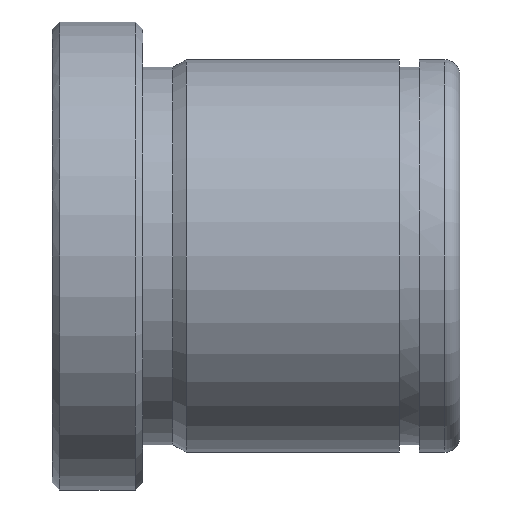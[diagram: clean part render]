
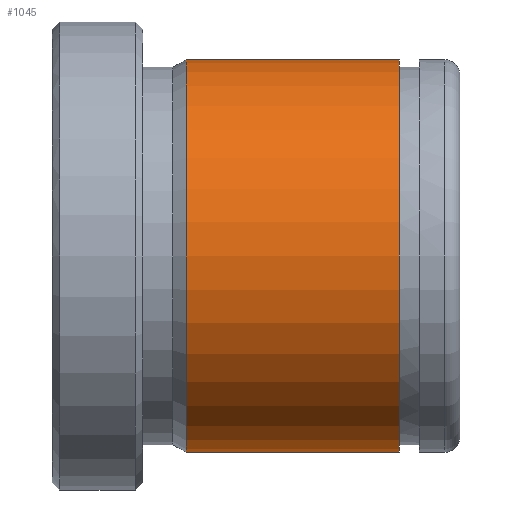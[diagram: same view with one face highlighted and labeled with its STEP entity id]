
A CAD part, front view. The second image highlights one B-rep face of the part: STEP entity #1045.
In plain terms, the highlighted cylindrical face has radius 13 mm (diameter 26 mm), a partial arc.
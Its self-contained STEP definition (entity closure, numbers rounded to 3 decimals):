
#851=CARTESIAN_POINT('Vertex',(8.866,0.,-13.)) ;
#858=CARTESIAN_POINT('Vertex',(8.866,0.,13.)) ;
#887=CARTESIAN_POINT('Axis2P3D Location',(8.866,0.,0.)) ;
#891=CARTESIAN_POINT('Vertex',(8.866,-13.,0.)) ;
#894=CARTESIAN_POINT('Axis2P3D Location',(8.866,0.,0.)) ;
#985=CARTESIAN_POINT('Line Origine',(54.,0.,13.)) ;
#989=CARTESIAN_POINT('Vertex',(23.,0.,13.)) ;
#1003=CARTESIAN_POINT('Vertex',(23.,0.,-13.)) ;
#1006=CARTESIAN_POINT('Line Origine',(54.,0.,-13.)) ;
#1020=CARTESIAN_POINT('Axis2P3D Location',(54.,0.,0.)) ;
#1025=CARTESIAN_POINT('Axis2P3D Location',(23.,0.,0.)) ;
#1029=CARTESIAN_POINT('Vertex',(23.,-13.,0.)) ;
#1032=CARTESIAN_POINT('Axis2P3D Location',(23.,0.,0.)) ;
#888=DIRECTION('Axis2P3D Direction',(1.,0.,-0.)) ;
#895=DIRECTION('Axis2P3D Direction',(1.,0.,-0.)) ;
#986=DIRECTION('Vector Direction',(-1.,0.,0.)) ;
#1007=DIRECTION('Vector Direction',(-1.,0.,0.)) ;
#1021=DIRECTION('Axis2P3D Direction',(-1.,-0.,-0.)) ;
#1022=DIRECTION('Axis2P3D XDirection',(0.,0.,-1.)) ;
#1026=DIRECTION('Axis2P3D Direction',(-1.,-0.,-0.)) ;
#1033=DIRECTION('Axis2P3D Direction',(-1.,-0.,-0.)) ;
#889=AXIS2_PLACEMENT_3D('Circle Axis2P3D',#887,#888,$) ;
#896=AXIS2_PLACEMENT_3D('Circle Axis2P3D',#894,#895,$) ;
#1023=AXIS2_PLACEMENT_3D('Cylinder Axis2P3D',#1020,#1021,#1022) ;
#1027=AXIS2_PLACEMENT_3D('Circle Axis2P3D',#1025,#1026,$) ;
#1034=AXIS2_PLACEMENT_3D('Circle Axis2P3D',#1032,#1033,$) ;
#1038=ORIENTED_EDGE('',*,*,#1010,.T.) ;
#1039=ORIENTED_EDGE('',*,*,#1031,.F.) ;
#1040=ORIENTED_EDGE('',*,*,#1036,.F.) ;
#1041=ORIENTED_EDGE('',*,*,#991,.T.) ;
#1042=ORIENTED_EDGE('',*,*,#898,.T.) ;
#1043=ORIENTED_EDGE('',*,*,#893,.T.) ;
#987=VECTOR('Line Direction',#986,1.) ;
#1008=VECTOR('Line Direction',#1007,1.) ;
#1045=ADVANCED_FACE('553-18X27',(#1044),#1024,.T.) ;
#890=CIRCLE('generated circle',#889,13.) ;
#897=CIRCLE('generated circle',#896,13.) ;
#1028=CIRCLE('generated circle',#1027,13.) ;
#1035=CIRCLE('generated circle',#1034,13.) ;
#1024=CYLINDRICAL_SURFACE('generated cylinder',#1023,13.) ;
#893=EDGE_CURVE('',#892,#852,#890,.T.) ;
#898=EDGE_CURVE('',#859,#892,#897,.T.) ;
#991=EDGE_CURVE('',#990,#859,#988,.T.) ;
#1010=EDGE_CURVE('',#852,#1004,#1009,.F.) ;
#1031=EDGE_CURVE('',#1030,#1004,#1028,.F.) ;
#1036=EDGE_CURVE('',#990,#1030,#1035,.F.) ;
#1037=EDGE_LOOP('',(#1038,#1039,#1040,#1041,#1042,#1043)) ;
#1044=FACE_OUTER_BOUND('',#1037,.T.) ;
#988=LINE('Line',#985,#987) ;
#1009=LINE('Line',#1006,#1008) ;
#852=VERTEX_POINT('',#851) ;
#859=VERTEX_POINT('',#858) ;
#892=VERTEX_POINT('',#891) ;
#990=VERTEX_POINT('',#989) ;
#1004=VERTEX_POINT('',#1003) ;
#1030=VERTEX_POINT('',#1029) ;
